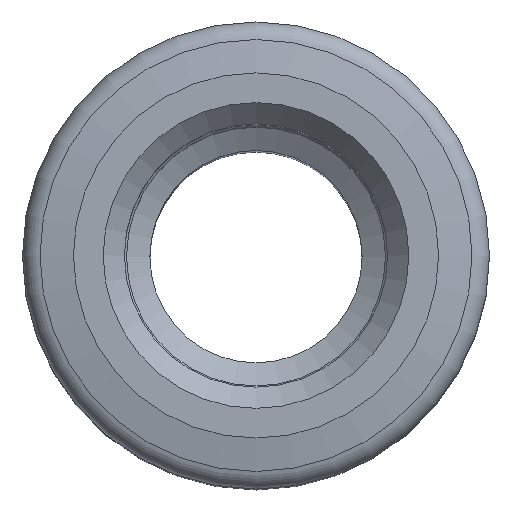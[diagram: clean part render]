
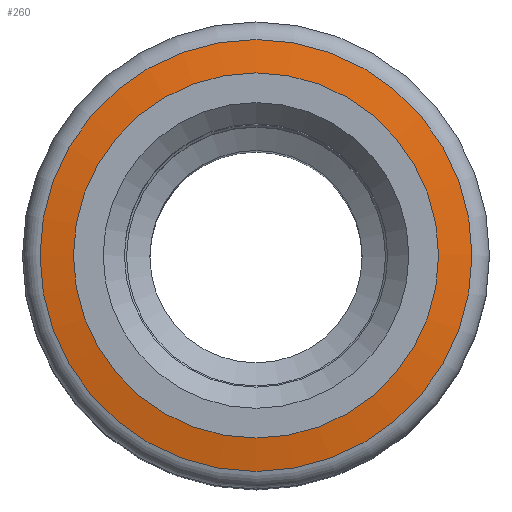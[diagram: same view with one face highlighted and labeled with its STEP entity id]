
A CAD part, top view. The second image highlights one B-rep face of the part: STEP entity #260.
In plain terms, the highlighted conical face has half-angle 80 degrees and reference radius 5.087 mm.
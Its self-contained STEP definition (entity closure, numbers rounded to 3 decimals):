
#260=ADVANCED_FACE('', (#270,#280), #290, .T.);
#1760=AXIS2_PLACEMENT_3D('Ax2Pl3d', #1770, #1780, #1790);
#1800=AXIS2_PLACEMENT_3D('Ax2Pl3d', #1810, #1820, #1830);
#1840=AXIS2_PLACEMENT_3D('Ax2Pl3d', #1850, #1860, #1870);
#1770=CARTESIAN_POINT('HicPkt', (13.322,11.774,
40.807));
#4180=CARTESIAN_POINT('', (18.409,11.774,40.807));
#1810=CARTESIAN_POINT('HicPkt', (13.322,11.774,
40.807));
#1850=CARTESIAN_POINT('HicPkt', (13.322,11.774,
40.945));
#4190=CARTESIAN_POINT('', (17.622,11.774,40.945));
#4500=CIRCLE('Circle', #1760, 5.087);
#4510=CIRCLE('Circle', #1840, 4.3);
#290=CONICAL_SURFACE('Kegel', #1800, 5.087, 1.396)
;
#1780=DIRECTION('Axis', (0.,0.,1.));
#1790=DIRECTION('RefDirection', (1.,0.,-0.));
#1820=DIRECTION('Axis', (0.,0.,-1.));
#1830=DIRECTION('RefDirection', (-1.,-0.,0.));
#1860=DIRECTION('Axis', (0.,0.,1.));
#1870=DIRECTION('RefDirection', (1.,0.,-0.));
#5920=EDGE_CURVE('', #5930, #5930, #4500, .T.);
#5940=EDGE_CURVE('', #5950, #5950, #4510, .T.);
#6640=EDGE_LOOP('Edge_loop', (#6650));
#6660=EDGE_LOOP('Edge_loop', (#6670));
#280=FACE_BOUND('', #6660, .T.);
#270=FACE_OUTER_BOUND('Face_outer_bound', #6640, .T.);
#6650=ORIENTED_EDGE('', *, *, #5920, .T.);
#6670=ORIENTED_EDGE('', *, *, #5940, .F.);
#5930=VERTEX_POINT('', #4180);
#5950=VERTEX_POINT('', #4190);
